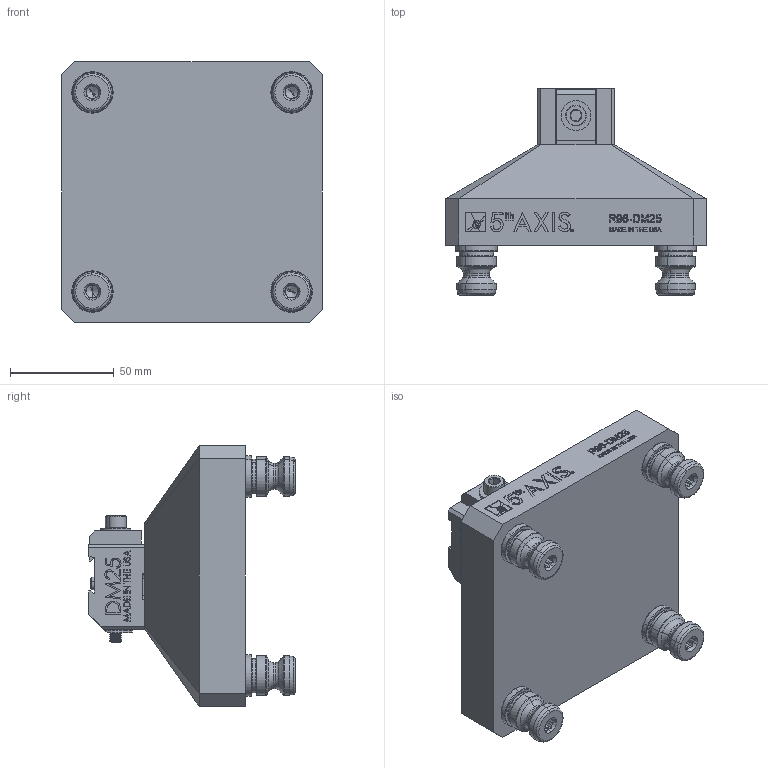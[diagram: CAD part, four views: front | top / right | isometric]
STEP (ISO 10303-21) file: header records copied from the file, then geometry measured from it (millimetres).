
FILE_DESCRIPTION (( 'STEP AP214' ), '1' );
FILE_NAME ('R96-DM25.STEP', '2018-01-22T21:18:15', ( '' ), ( '' ), 'SwSTEP 2.0', 'SolidWorks 2017', '' );
FILE_SCHEMA (( 'AUTOMOTIVE_DESIGN' ));
Length unit declared in the file: inch
Products named in the file (14): HW.76200; HW.LCM110E01M; R96-DM25; CDS25M; HW.M6.FW; DM25; SLD25_SLD25; LP6 REV A_LP6; HW.16101; PS20F; DM25-1; 91390A162_ALLOY STEEL CUP POINT SET SCREW_91390A162
Assembly tree (18 placements, depth 3):
  R96-DM25
    R96-DM25
    DM25
      DM25-1
      CDS25M
      HW.76200
      HW.M6.FW
      SLD25_SLD25
      HW.LCM110E01M
      HW.16101
      LP6 REV A_LP6  x3
    PS20F  x4
      PS20F
      91390A162_ALLOY STEEL CUP POINT SET SCREW_91390A162
Bounding box: 125.73 x 99.4 x 125.73 mm (x, y, z)
Volume: 607557.4 mm3; surface area: 84965.2 mm2
Topology: 19 solids, 19 shells, 2025 faces, 5193 edges, 3318 vertices
Faces by surface type: plane 894, cylinder 523, bspline 307, cone 196, torus 105
Entity records: 73030 total; most frequent: CARTESIAN_POINT 32103, ORIENTED_EDGE 8056, DIRECTION 5781, EDGE_CURVE 4028, VERTEX_POINT 2645, VECTOR 2509, LINE 2509, EDGE_LOOP 1697
